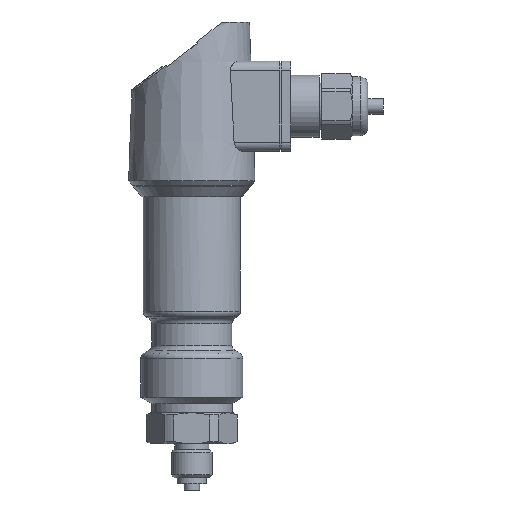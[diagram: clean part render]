
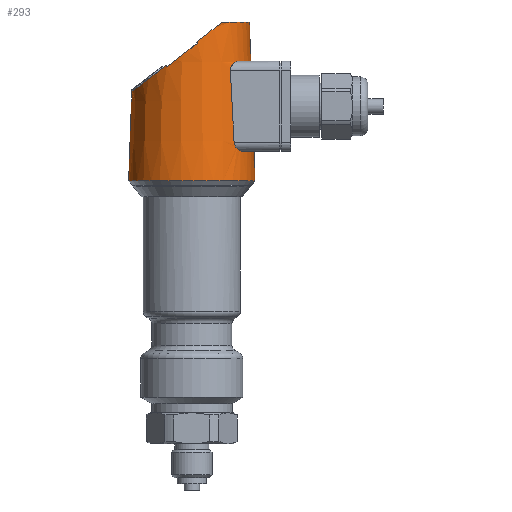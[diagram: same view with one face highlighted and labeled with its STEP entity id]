
A CAD part, front view. The second image highlights one B-rep face of the part: STEP entity #293.
In plain terms, the highlighted conical face has half-angle 2.006 degrees and reference radius 19.55 mm.
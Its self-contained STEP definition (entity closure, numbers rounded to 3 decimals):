
#293=ADVANCED_FACE('',(#691),#692,.T.);
#691=FACE_OUTER_BOUND('',#1203,.T.);
#692=CONICAL_SURFACE('',#1204,19.55,0.035);
#1203=EDGE_LOOP('',(#1996,#1997,#1998,#1999,#2000,#2001,#2002,#2003,#2004,#2005,#2006,#2007,#2008,#2009,#2010));
#1204=AXIS2_PLACEMENT_3D('',#2011,#2012,#2013);
#1996=ORIENTED_EDGE('',*,*,#3097,.T.);
#1997=ORIENTED_EDGE('',*,*,#3189,.F.);
#1998=ORIENTED_EDGE('',*,*,#3110,.T.);
#1999=ORIENTED_EDGE('',*,*,#3190,.T.);
#2000=ORIENTED_EDGE('',*,*,#3191,.T.);
#2001=ORIENTED_EDGE('',*,*,#3192,.T.);
#2002=ORIENTED_EDGE('',*,*,#3193,.T.);
#2003=ORIENTED_EDGE('',*,*,#3194,.T.);
#2004=ORIENTED_EDGE('',*,*,#3104,.T.);
#2005=ORIENTED_EDGE('',*,*,#3195,.T.);
#2006=ORIENTED_EDGE('',*,*,#3186,.T.);
#2007=ORIENTED_EDGE('',*,*,#3177,.T.);
#2008=ORIENTED_EDGE('',*,*,#3181,.T.);
#2009=ORIENTED_EDGE('',*,*,#3184,.T.);
#2010=ORIENTED_EDGE('',*,*,#3196,.T.);
#2011=CARTESIAN_POINT('',(0.0,0.0,27.2));
#2012=DIRECTION('',(-0.0,0.0,-1.0));
#2013=DIRECTION('',(-1.0,0.,0.0));
#3097=EDGE_CURVE('',#3731,#3722,#3732,.T.);
#3104=EDGE_CURVE('',#3745,#3743,#3746,.T.);
#3110=EDGE_CURVE('',#3725,#3755,#3757,.T.);
#3177=EDGE_CURVE('',#3861,#3859,#3862,.T.);
#3181=EDGE_CURVE('',#3859,#3865,#3867,.T.);
#3184=EDGE_CURVE('',#3865,#3869,#3871,.T.);
#3186=EDGE_CURVE('',#3873,#3861,#3874,.T.);
#3189=EDGE_CURVE('',#3725,#3722,#3877,.T.);
#3190=EDGE_CURVE('',#3755,#3878,#3879,.T.);
#3191=EDGE_CURVE('',#3878,#3880,#3881,.T.);
#3192=EDGE_CURVE('',#3880,#3882,#3883,.T.);
#3193=EDGE_CURVE('',#3882,#3884,#3885,.T.);
#3194=EDGE_CURVE('',#3884,#3745,#3886,.T.);
#3195=EDGE_CURVE('',#3743,#3873,#3887,.T.);
#3196=EDGE_CURVE('',#3869,#3731,#3888,.T.);
#3722=VERTEX_POINT('',#4585);
#3725=VERTEX_POINT('',#4589);
#3731=VERTEX_POINT('',#4596);
#3732=LINE('',#4597,#4598);
#3743=VERTEX_POINT('',#4609);
#3745=VERTEX_POINT('',#4611);
#3746=LINE('',#4612,#4613);
#3755=VERTEX_POINT('',#4670);
#3757=LINE('',#4672,#4673);
#3859=VERTEX_POINT('',#4801);
#3861=VERTEX_POINT('',#4804);
#3862=ELLIPSE('',#4805,30.824,18.83);
#3865=VERTEX_POINT('',#4809);
#3867=ELLIPSE('',#4812,23.954,18.946);
#3869=VERTEX_POINT('',#4814);
#3871=ELLIPSE('',#4817,31.996,19.547);
#3873=VERTEX_POINT('',#4819);
#3874=ELLIPSE('',#4820,23.926,18.924);
#3877=CIRCLE('',#4824,20.45);
#3878=VERTEX_POINT('',#4825);
#3879=CIRCLE('',#4826,20.117);
#3880=VERTEX_POINT('',#4827);
#3881=B_SPLINE_CURVE_WITH_KNOTS('',3,(#4828,#4829,#4830,#4831,#4832,#4833,#4834,#4835,#4836,#4837,#4838,#4839,#4840,#4841,#4842,#4843,#4844,#4845,#4846,#4847),.UNSPECIFIED.,.F.,.F.,(4,2,2,2,2,2,2,2,2,4),(4.264,4.911,5.614,6.318,7.021,7.725,8.351,8.978,9.604,10.231),.UNSPECIFIED.);
#3882=VERTEX_POINT('',#4848);
#3883=(B_SPLINE_CURVE(2,(#4850,#4851,#4852),.UNSPECIFIED.,.F.,.F.)B_SPLINE_CURVE_WITH_KNOTS((3,3),(0.0,23.232),.UNSPECIFIED.)RATIONAL_B_SPLINE_CURVE((1.0,1.,1.0))BOUNDED_CURVE()REPRESENTATION_ITEM('')GEOMETRIC_REPRESENTATION_ITEM()CURVE());
#3884=VERTEX_POINT('',#4859);
#3885=B_SPLINE_CURVE_WITH_KNOTS('',3,(#4860,#4861,#4862,#4863,#4864,#4865,#4866,#4867,#4868,#4869,#4870,#4871,#4872,#4873,#4874,#4875,#4876,#4877,#4878,#4879),.UNSPECIFIED.,.F.,.F.,(4,2,2,2,2,2,2,2,2,4),(9.754,10.391,10.958,11.525,12.092,12.659,13.425,14.19,14.955,15.721),.UNSPECIFIED.);
#3886=CIRCLE('',#4880,19.095);
#3887=CIRCLE('',#4881,18.65);
#3888=ELLIPSE('',#4882,23.926,18.924);
#4585=CARTESIAN_POINT('',(-20.45,0.,1.5));
#4589=CARTESIAN_POINT('',(20.45,0.,1.5));
#4596=CARTESIAN_POINT('',(-19.443,0.,30.26));
#4597=CARTESIAN_POINT('',(-19.55,0.,27.2));
#4598=VECTOR('',#5909,1.0);
#4609=CARTESIAN_POINT('',(18.65,0.,52.9));
#4611=CARTESIAN_POINT('',(19.095,0.,40.2));
#4612=CARTESIAN_POINT('',(19.55,0.,27.2));
#4613=VECTOR('',#5928,1.0);
#4670=CARTESIAN_POINT('',(20.117,0.,11.));
#4672=CARTESIAN_POINT('',(19.55,0.,27.2));
#4673=VECTOR('',#5935,1.0);
#4801=CARTESIAN_POINT('',(1.769,-18.808,46.022));
#4804=CARTESIAN_POINT('',(1.463,-18.82,46.418));
#4805=AXIS2_PLACEMENT_3D('',#6029,#6030,#6031);
#4809=CARTESIAN_POINT('',(-8.122,-17.352,38.378));
#4812=AXIS2_PLACEMENT_3D('',#6034,#6035,#6036);
#4814=CARTESIAN_POINT('',(-8.427,-17.19,38.774));
#4817=AXIS2_PLACEMENT_3D('',#6038,#6039,#6040);
#4819=CARTESIAN_POINT('',(9.85,-15.837,52.9));
#4820=AXIS2_PLACEMENT_3D('',#6041,#6042,#6043);
#4824=AXIS2_PLACEMENT_3D('',#6045,#6046,#6047);
#4825=CARTESIAN_POINT('',(16.436,-11.6,11.));
#4826=AXIS2_PLACEMENT_3D('',#6048,#6049,#6050);
#4827=CARTESIAN_POINT('',(13.687,-14.6,14.0));
#4828=CARTESIAN_POINT('',(16.769,-11.111,11.04));
#4829=CARTESIAN_POINT('',(16.645,-11.3,11.009));
#4830=CARTESIAN_POINT('',(16.518,-11.485,10.997));
#4831=CARTESIAN_POINT('',(16.257,-11.852,11.004));
#4832=CARTESIAN_POINT('',(16.112,-12.047,11.027));
#4833=CARTESIAN_POINT('',(15.812,-12.433,11.111));
#4834=CARTESIAN_POINT('',(15.658,-12.623,11.173));
#4835=CARTESIAN_POINT('',(15.349,-12.988,11.333));
#4836=CARTESIAN_POINT('',(15.195,-13.162,11.431));
#4837=CARTESIAN_POINT('',(14.898,-13.486,11.659));
#4838=CARTESIAN_POINT('',(14.755,-13.636,11.788));
#4839=CARTESIAN_POINT('',(14.504,-13.888,12.052));
#4840=CARTESIAN_POINT('',(14.386,-14.004,12.195));
#4841=CARTESIAN_POINT('',(14.165,-14.211,12.511));
#4842=CARTESIAN_POINT('',(14.063,-14.303,12.684));
#4843=CARTESIAN_POINT('',(13.889,-14.454,13.054));
#4844=CARTESIAN_POINT('',(13.818,-14.512,13.252));
#4845=CARTESIAN_POINT('',(13.718,-14.588,13.658));
#4846=CARTESIAN_POINT('',(13.689,-14.604,13.868));
#4847=CARTESIAN_POINT('',(13.684,-14.599,14.077));
#4848=CARTESIAN_POINT('',(12.469,-14.6,37.2));
#4850=CARTESIAN_POINT('',(13.687,-14.6,14.0));
#4851=CARTESIAN_POINT('',(13.065,-14.6,26.14));
#4852=CARTESIAN_POINT('',(12.469,-14.6,37.2));
#4859=CARTESIAN_POINT('',(15.167,-11.6,40.2));
#4860=CARTESIAN_POINT('',(12.557,-14.549,36.652));
#4861=CARTESIAN_POINT('',(12.502,-14.587,36.856));
#4862=CARTESIAN_POINT('',(12.471,-14.605,37.068));
#4863=CARTESIAN_POINT('',(12.462,-14.594,37.469));
#4864=CARTESIAN_POINT('',(12.479,-14.571,37.659));
#4865=CARTESIAN_POINT('',(12.553,-14.489,38.029));
#4866=CARTESIAN_POINT('',(12.611,-14.431,38.209));
#4867=CARTESIAN_POINT('',(12.756,-14.287,38.547));
#4868=CARTESIAN_POINT('',(12.844,-14.2,38.706));
#4869=CARTESIAN_POINT('',(13.037,-14.01,38.995));
#4870=CARTESIAN_POINT('',(13.142,-13.905,39.126));
#4871=CARTESIAN_POINT('',(13.39,-13.655,39.396));
#4872=CARTESIAN_POINT('',(13.546,-13.493,39.537));
#4873=CARTESIAN_POINT('',(13.873,-13.144,39.781));
#4874=CARTESIAN_POINT('',(14.044,-12.957,39.884));
#4875=CARTESIAN_POINT('',(14.387,-12.565,40.048));
#4876=CARTESIAN_POINT('',(14.561,-12.361,40.11));
#4877=CARTESIAN_POINT('',(14.898,-11.948,40.187));
#4878=CARTESIAN_POINT('',(15.061,-11.74,40.204));
#4879=CARTESIAN_POINT('',(15.216,-11.537,40.199));
#4880=AXIS2_PLACEMENT_3D('',#6051,#6052,#6053);
#4881=AXIS2_PLACEMENT_3D('',#6054,#6055,#6056);
#4882=AXIS2_PLACEMENT_3D('',#6057,#6058,#6059);
#5909=DIRECTION('',(-0.035,0.,-0.999));
#5928=DIRECTION('',(-0.035,0.,0.999));
#5935=DIRECTION('',(-0.035,0.,0.999));
#6029=CARTESIAN_POINT('',(0.854,0.,47.206));
#6030=DIRECTION('',(0.791,0.,0.612));
#6031=DIRECTION('',(0.612,0.,-0.791));
#6034=CARTESIAN_POINT('',(-0.513,0.,44.259));
#6035=DIRECTION('',(0.612,0.,-0.791));
#6036=DIRECTION('',(0.791,0.,0.612));
#6038=CARTESIAN_POINT('',(0.887,0.,26.723));
#6039=DIRECTION('',(-0.791,0.,-0.612));
#6040=DIRECTION('',(0.612,0.,-0.791));
#6041=CARTESIAN_POINT('',(-0.512,0.,44.891));
#6042=DIRECTION('',(0.612,0.,-0.791));
#6043=DIRECTION('',(0.791,0.,0.612));
#6045=CARTESIAN_POINT('',(0.0,0.0,1.5));
#6046=DIRECTION('',(0.0,0.0,-1.0));
#6047=DIRECTION('',(-1.0,0.,0.0));
#6048=CARTESIAN_POINT('',(0.0,0.0,11.));
#6049=DIRECTION('',(0.,0.,-1.0));
#6050=DIRECTION('',(-1.0,0.,0.));
#6051=CARTESIAN_POINT('',(0.0,0.0,40.2));
#6052=DIRECTION('',(0.,0.,1.0));
#6053=DIRECTION('',(-1.0,0.,0.));
#6054=CARTESIAN_POINT('',(0.0,0.0,52.9));
#6055=DIRECTION('',(0.0,0.0,-1.0));
#6056=DIRECTION('',(-1.0,0.,0.0));
#6057=CARTESIAN_POINT('',(-0.512,0.,44.891));
#6058=DIRECTION('',(0.612,0.,-0.791));
#6059=DIRECTION('',(0.791,0.,0.612));
